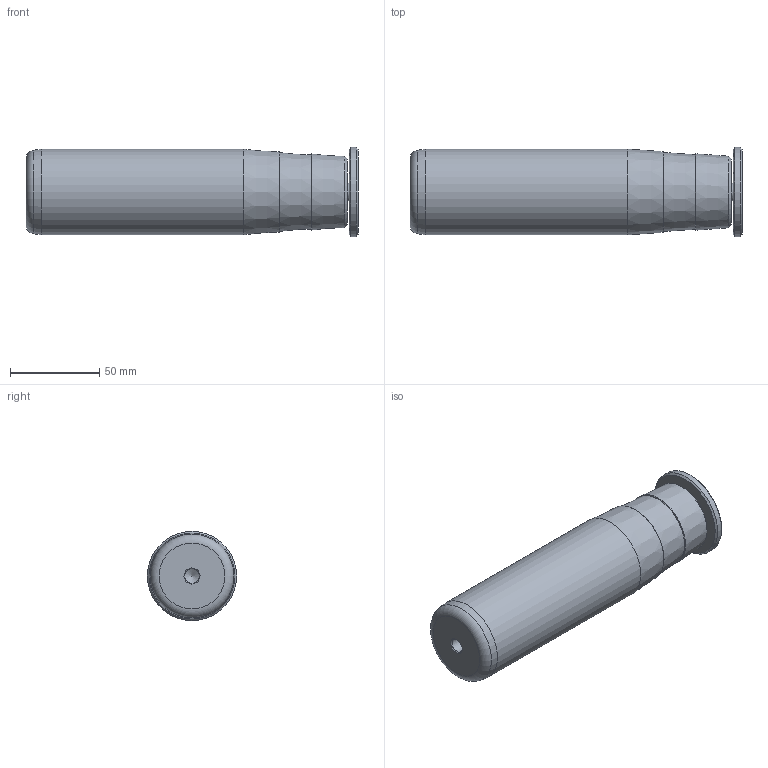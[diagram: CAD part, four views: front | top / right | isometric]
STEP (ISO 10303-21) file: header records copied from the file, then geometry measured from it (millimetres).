
FILE_DESCRIPTION(/* description */ ('Impex Ready, www.impex-ready.pl'),/* implementation_level */ '2;1');
FILE_NAME(/* name */ 'C:\Users\VIKKY\Nextcloud\SM\projekt 10 - części na stronę internetową\Pliki_3D_new\270 Słupy C5A\270_Słupy_C5A_STEP\C5A48140.ipt.step',/* time_stamp */ '2021-12-17T12:31:08+01:00',/* author */ ('SM'),/* organization */ (''),/* preprocessor_version */ 'ST-DEVELOPER v18.1',/* originating_system */ 'Autodesk Inventor 2021',/* authorisation */ '');
FILE_SCHEMA (('AUTOMOTIVE_DESIGN { 1 0 10303 214 3 1 1 }'));
Length unit declared in the file: millimetre
Products named in the file (1): C5A48140
Bounding box: 186 x 50 x 50 mm (x, y, z)
Volume: 314103.8 mm3; surface area: 35783.4 mm2
Topology: 3 solids, 3 shells, 61 faces, 134 edges, 81 vertices
Faces by surface type: plane 32, cone 16, cylinder 7, torus 6
Full cylindrical faces by diameter (mm): 8 x1, 10 x2, 12.5 x1, 17.879 x1, 48 x1, 50 x1
Entity records: 1769 total; most frequent: DIRECTION 309, CARTESIAN_POINT 298, ORIENTED_EDGE 262, EDGE_CURVE 131, AXIS2_PLACEMENT_3D 128, VERTEX_POINT 81, EDGE_LOOP 68, CIRCLE 66
